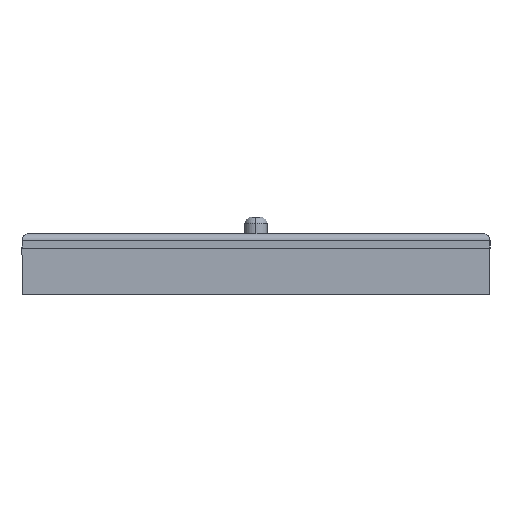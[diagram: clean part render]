
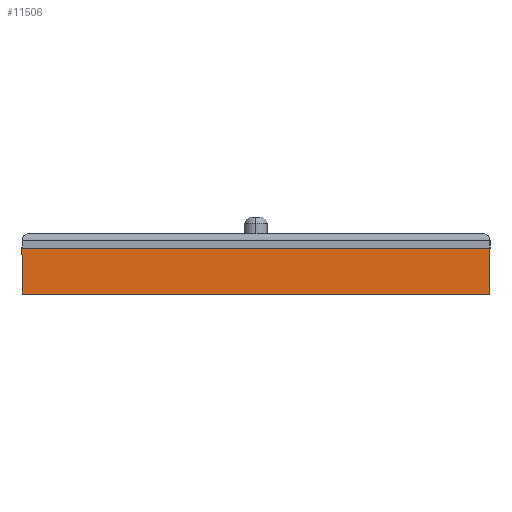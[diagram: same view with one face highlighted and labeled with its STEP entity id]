
A CAD part, left-side view. The second image highlights one B-rep face of the part: STEP entity #11506.
In plain terms, the highlighted planar face has unit normal (-1, 0, 0).
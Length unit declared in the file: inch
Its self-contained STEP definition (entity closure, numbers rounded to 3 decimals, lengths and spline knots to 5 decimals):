
#392 = CARTESIAN_POINT ( 'NONE',  ( 0.906, 0., -1.37 ) ) ;
#434 = CARTESIAN_POINT ( 'NONE',  ( 0.906, 10.5, -1.37 ) ) ;
#435 = CARTESIAN_POINT ( 'NONE',  ( 0.906, 0., -0.32 ) ) ;
#444 = CARTESIAN_POINT ( 'NONE',  ( 0.906, 10.5, -0.32 ) ) ;
#619 = VERTEX_POINT ( 'NONE', #444 ) ;
#628 = VERTEX_POINT ( 'NONE', #435 ) ;
#629 = VERTEX_POINT ( 'NONE', #434 ) ;
#695 = VERTEX_POINT ( 'NONE', #392 ) ;
#4706 = CARTESIAN_POINT ( 'NONE',  ( 0.906, 10.5, -0.32 ) ) ;
#4726 = DIRECTION ( 'NONE',  ( 0., 0., -1. ) ) ;
#4742 = CARTESIAN_POINT ( 'NONE',  ( 0.906, 0., -0.32 ) ) ;
#4743 = DIRECTION ( 'NONE',  ( 0., 0., -1. ) ) ;
#4744 = CARTESIAN_POINT ( 'NONE',  ( 0.906, 10.5, -1.37 ) ) ;
#4745 = DIRECTION ( 'NONE',  ( 0., -1., 0. ) ) ;
#5293 = CARTESIAN_POINT ( 'NONE',  ( 0.906, 10.5, -0.32 ) ) ;
#5298 = PLANE ( 'NONE',  #12975 ) ;
#5303 = DIRECTION ( 'NONE',  ( 1., 0., 0. ) ) ;
#5304 = DIRECTION ( 'NONE',  ( 0., 1., 0. ) ) ;
#5802 = ORIENTED_EDGE ( 'NONE', *, *, #9813, .F. ) ;
#5803 = ORIENTED_EDGE ( 'NONE', *, *, #9871, .F. ) ;
#5804 = ORIENTED_EDGE ( 'NONE', *, *, #9805, .T. ) ;
#9805 = EDGE_CURVE ( 'NONE', #619, #629, #12830, .T. ) ;
#9813 = EDGE_CURVE ( 'NONE', #628, #695, #13775, .T. ) ;
#9814 = EDGE_CURVE ( 'NONE', #629, #695, #13784, .T. ) ;
#9871 = EDGE_CURVE ( 'NONE', #619, #628, #13897, .T. ) ;
#11173 = ORIENTED_EDGE ( 'NONE', *, *, #9814, .T. ) ;
#11450 = CARTESIAN_POINT ( 'NONE',  ( 0.906, 10.5, -0.32 ) ) ;
#11451 = DIRECTION ( 'NONE',  ( 0., -1., 0. ) ) ;
#11506 = ADVANCED_FACE ( 'NONE', ( #14235 ), #5298, .F. ) ;
#12830 = LINE ( 'NONE', #4706, #13767 ) ;
#12975 = AXIS2_PLACEMENT_3D ( 'NONE', #5293, #5303, #5304 ) ;
#13464 = EDGE_LOOP ( 'NONE', ( #11173, #5802, #5803, #5804 ) ) ;
#13767 = VECTOR ( 'NONE', #4726, 39.37008 ) ;
#13773 = VECTOR ( 'NONE', #4743, 39.37008 ) ;
#13775 = LINE ( 'NONE', #4742, #13773 ) ;
#13784 = LINE ( 'NONE', #4744, #13785 ) ;
#13785 = VECTOR ( 'NONE', #4745, 39.37008 ) ;
#13897 = LINE ( 'NONE', #11450, #13898 ) ;
#13898 = VECTOR ( 'NONE', #11451, 39.37008 ) ;
#14235 = FACE_OUTER_BOUND ( 'NONE', #13464, .T. ) ;
